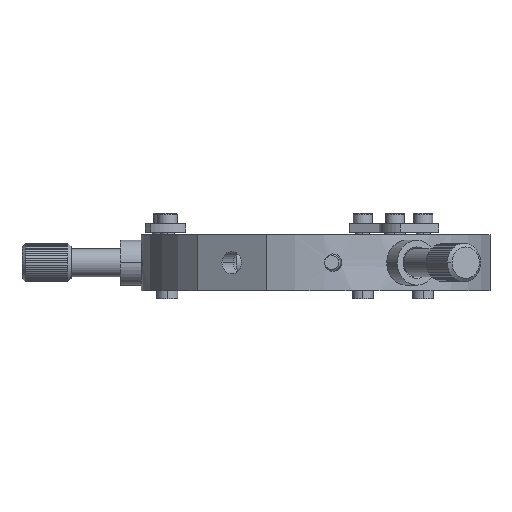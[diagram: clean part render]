
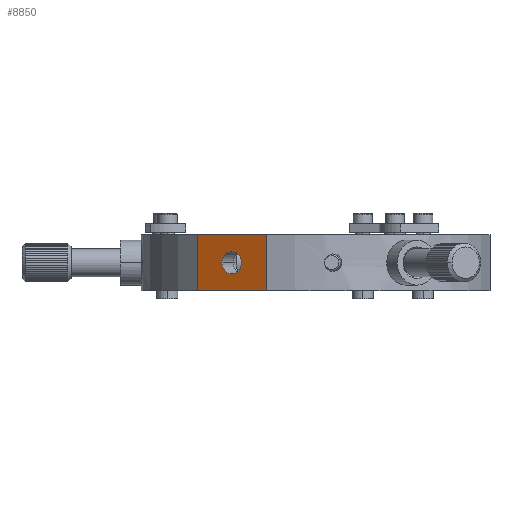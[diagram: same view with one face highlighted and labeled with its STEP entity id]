
A CAD part, left-side view. The second image highlights one B-rep face of the part: STEP entity #8850.
In plain terms, the highlighted planar face has unit normal (-0.866, 0.5, 0).
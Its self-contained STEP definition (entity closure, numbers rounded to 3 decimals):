
#1893 = CARTESIAN_POINT ( 'NONE',  ( -44.122, 21.779, 8. ) ) ;
#1894 = DIRECTION ( 'NONE',  ( -0.5, -0.866, 0. ) ) ;
#1895 = DIRECTION ( 'NONE',  ( -0.866, 0.5, 0. ) ) ;
#1896 = CARTESIAN_POINT ( 'NONE',  ( -42.522, 24.55, 8. ) ) ;
#1897 = AXIS2_PLACEMENT_3D ( 'NONE', #1896, #1895, #1894 ) ;
#1898 = CIRCLE ( 'NONE', #1897, 3.2 ) ;
#2023 = CARTESIAN_POINT ( 'NONE',  ( -40.922, 27.321, 8. ) ) ;
#8422 = EDGE_CURVE ( 'NONE', #11448, #11536, #19252, .T. ) ;
#8722 = VERTEX_POINT ( 'NONE', #19780 ) ;
#8724 = EDGE_CURVE ( 'NONE', #8722, #8725, #19779, .T. ) ;
#8725 = VERTEX_POINT ( 'NONE', #19775 ) ;
#8736 = EDGE_LOOP ( 'NONE', ( #8737, #8824 ) ) ;
#8737 = ORIENTED_EDGE ( 'NONE', *, *, #8422, .F. ) ;
#8751 = EDGE_CURVE ( 'NONE', #8725, #8752, #19822, .T. ) ;
#8752 = VERTEX_POINT ( 'NONE', #19818 ) ;
#8824 = ORIENTED_EDGE ( 'NONE', *, *, #11447, .F. ) ;
#8850 = ADVANCED_FACE ( 'NONE', ( #19874, #19868 ), #19867, .F. ) ;
#8853 = EDGE_LOOP ( 'NONE', ( #8855, #8857, #8860, #8863 ) ) ;
#8855 = ORIENTED_EDGE ( 'NONE', *, *, #8724, .F. ) ;
#8857 = ORIENTED_EDGE ( 'NONE', *, *, #8858, .F. ) ;
#8858 = EDGE_CURVE ( 'NONE', #8859, #8722, #19862, .T. ) ;
#8859 = VERTEX_POINT ( 'NONE', #19929 ) ;
#8860 = ORIENTED_EDGE ( 'NONE', *, *, #8861, .F. ) ;
#8861 = EDGE_CURVE ( 'NONE', #8752, #8859, #19928, .T. ) ;
#8863 = ORIENTED_EDGE ( 'NONE', *, *, #8751, .F. ) ;
#11447 = EDGE_CURVE ( 'NONE', #11536, #11448, #1898, .T. ) ;
#11448 = VERTEX_POINT ( 'NONE', #1893 ) ;
#11536 = VERTEX_POINT ( 'NONE', #2023 ) ;
#19244 = DIRECTION ( 'NONE',  ( -0.5, -0.866, 0. ) ) ;
#19245 = DIRECTION ( 'NONE',  ( -0.866, 0.5, 0. ) ) ;
#19246 = CARTESIAN_POINT ( 'NONE',  ( -42.522, 24.55, 8. ) ) ;
#19247 = AXIS2_PLACEMENT_3D ( 'NONE', #19246, #19245, #19244 ) ;
#19252 = CIRCLE ( 'NONE', #19247, 3.2 ) ;
#19775 = CARTESIAN_POINT ( 'NONE',  ( -48.208, 14.701, 16. ) ) ;
#19776 = DIRECTION ( 'NONE',  ( -0.5, -0.866, 0. ) ) ;
#19777 = VECTOR ( 'NONE', #19776, 1000. ) ;
#19778 = CARTESIAN_POINT ( 'NONE',  ( -54.735, 3.397, 16. ) ) ;
#19779 = LINE ( 'NONE', #19778, #19777 ) ;
#19780 = CARTESIAN_POINT ( 'NONE',  ( -36.835, 34.399, 16. ) ) ;
#19818 = CARTESIAN_POINT ( 'NONE',  ( -48.208, 14.701, 0. ) ) ;
#19819 = DIRECTION ( 'NONE',  ( 0., 0., -1. ) ) ;
#19820 = VECTOR ( 'NONE', #19819, 1000. ) ;
#19821 = CARTESIAN_POINT ( 'NONE',  ( -48.208, 14.701, 16. ) ) ;
#19822 = LINE ( 'NONE', #19821, #19820 ) ;
#19861 = CARTESIAN_POINT ( 'NONE',  ( -36.835, 34.399, 0. ) ) ;
#19862 = LINE ( 'NONE', #19861, #19931 ) ;
#19863 = DIRECTION ( 'NONE',  ( 0.5, 0.866, 0. ) ) ;
#19864 = DIRECTION ( 'NONE',  ( 0.866, -0.5, 0. ) ) ;
#19865 = CARTESIAN_POINT ( 'NONE',  ( -54.735, 3.397, 16. ) ) ;
#19866 = AXIS2_PLACEMENT_3D ( 'NONE', #19865, #19864, #19863 ) ;
#19867 = PLANE ( 'NONE',  #19866 ) ;
#19868 = FACE_BOUND ( 'NONE', #8736, .T. ) ;
#19874 = FACE_OUTER_BOUND ( 'NONE', #8853, .T. ) ;
#19925 = DIRECTION ( 'NONE',  ( 0.5, 0.866, 0. ) ) ;
#19926 = VECTOR ( 'NONE', #19925, 1000. ) ;
#19927 = CARTESIAN_POINT ( 'NONE',  ( -48.208, 14.701, 0. ) ) ;
#19928 = LINE ( 'NONE', #19927, #19926 ) ;
#19929 = CARTESIAN_POINT ( 'NONE',  ( -36.835, 34.399, 0. ) ) ;
#19930 = DIRECTION ( 'NONE',  ( 0., 0., 1. ) ) ;
#19931 = VECTOR ( 'NONE', #19930, 1000. ) ;
